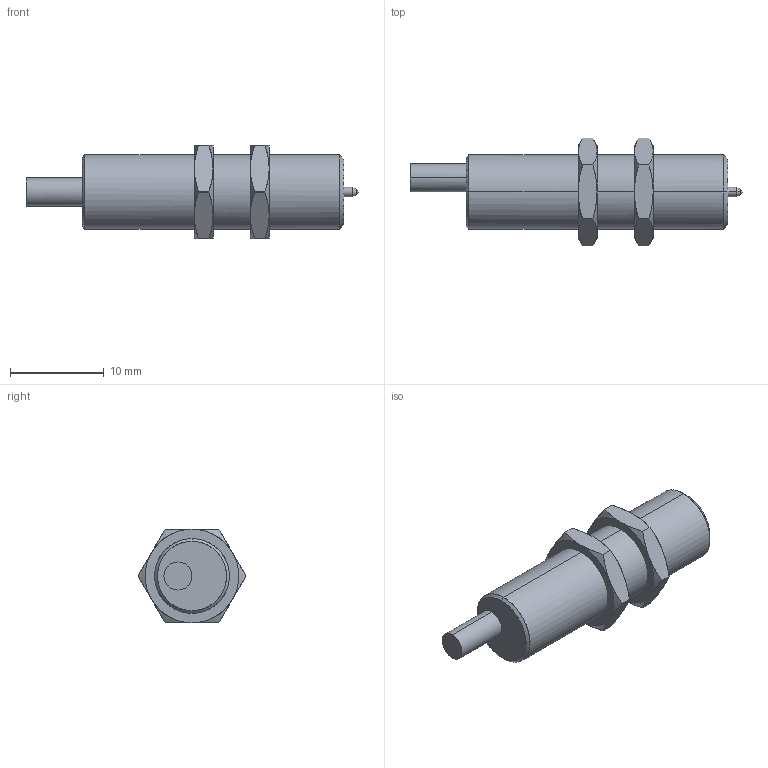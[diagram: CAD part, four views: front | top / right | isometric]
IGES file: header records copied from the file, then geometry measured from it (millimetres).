
Start section: Comment
Global section: file name: MY COM_F.igs; native system:  By Spatial Corp.; preprocessor: XPlus GENERIC/IGES 3.0; author: Author; organization: Title; date: 20070405.095737; units: millimetre
Bounding box: 35.5 x 11.55 x 10 mm (x, y, z)
Surface area: 1239.8 mm2 (no closed solid volume)
Topology: 0 solids, 0 shells, 60 faces, 252 edges, 252 vertices
Faces by surface type: bspline 60
